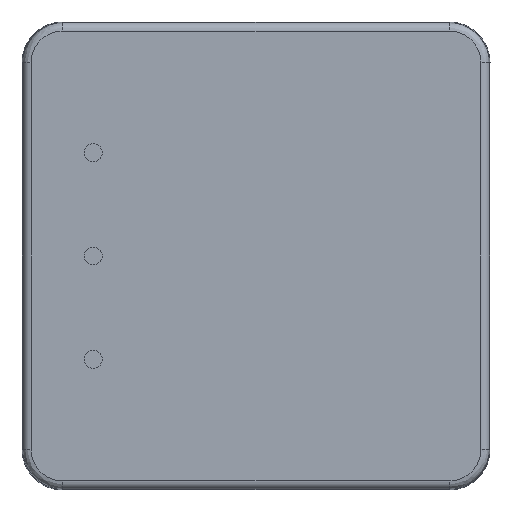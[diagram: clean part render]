
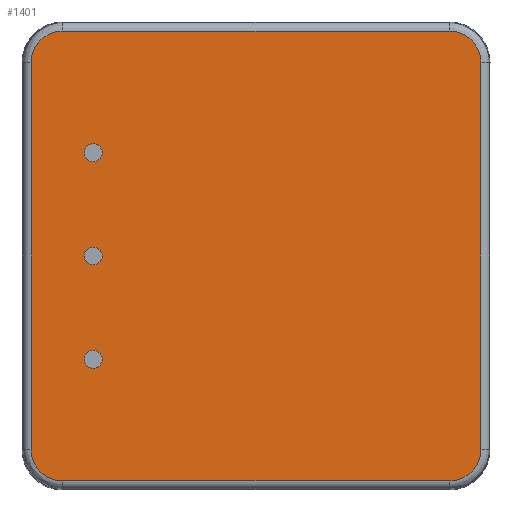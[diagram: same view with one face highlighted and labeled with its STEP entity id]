
A CAD part, front view. The second image highlights one B-rep face of the part: STEP entity #1401.
In plain terms, the highlighted planar face has unit normal (0, -1, 0).
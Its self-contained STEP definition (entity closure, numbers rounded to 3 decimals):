
#16 = ORIENTED_EDGE ( 'NONE', *, *, #745, .F. ) ;
#23 = VERTEX_POINT ( 'NONE', #1305 ) ;
#32 = VERTEX_POINT ( 'NONE', #110 ) ;
#35 = AXIS2_PLACEMENT_3D ( 'NONE', #1526, #690, #1177 ) ;
#46 = AXIS2_PLACEMENT_3D ( 'NONE', #583, #1075, #1197 ) ;
#47 = EDGE_LOOP ( 'NONE', ( #871, #309 ) ) ;
#68 = CIRCLE ( 'NONE', #376, 0.22 ) ;
#71 = CIRCLE ( 'NONE', #1193, 0.22 ) ;
#90 = CARTESIAN_POINT ( 'NONE',  ( -5.527, 0., -4.75 ) ) ;
#110 = CARTESIAN_POINT ( 'NONE',  ( -4., 0., 0.22 ) ) ;
#116 = EDGE_CURVE ( 'NONE', #768, #637, #613, .T. ) ;
#120 = CIRCLE ( 'NONE', #46, 0.22 ) ;
#155 = ORIENTED_EDGE ( 'NONE', *, *, #260, .F. ) ;
#174 = VECTOR ( 'NONE', #700, 1000. ) ;
#179 = CARTESIAN_POINT ( 'NONE',  ( -4., 0., 0. ) ) ;
#192 = CARTESIAN_POINT ( 'NONE',  ( -5.527, 0., 4.75 ) ) ;
#193 = CARTESIAN_POINT ( 'NONE',  ( -4.75, 0., -5.527 ) ) ;
#212 = CARTESIAN_POINT ( 'NONE',  ( 0., 0., -5.527 ) ) ;
#229 = CARTESIAN_POINT ( 'NONE',  ( 4.75, 0., -5.527 ) ) ;
#260 = EDGE_CURVE ( 'NONE', #32, #359, #68, .T. ) ;
#261 = CARTESIAN_POINT ( 'NONE',  ( -4.75, 0., 5.527 ) ) ;
#272 = DIRECTION ( 'NONE',  ( 0., -1., 0. ) ) ;
#291 = VERTEX_POINT ( 'NONE', #425 ) ;
#307 = CARTESIAN_POINT ( 'NONE',  ( 0., 0., 5.527 ) ) ;
#309 = ORIENTED_EDGE ( 'NONE', *, *, #506, .F. ) ;
#313 = CARTESIAN_POINT ( 'NONE',  ( -4., 0., 2.76 ) ) ;
#318 = DIRECTION ( 'NONE',  ( 1., 0., 0. ) ) ;
#321 = CARTESIAN_POINT ( 'NONE',  ( -4., 0., -2.54 ) ) ;
#346 = DIRECTION ( 'NONE',  ( 0., 0., 1. ) ) ;
#352 =( BOUNDED_CURVE ( )  B_SPLINE_CURVE ( 3, ( #193, #1294, #815, #90 ),
 .UNSPECIFIED., .F., .T. ) 
 B_SPLINE_CURVE_WITH_KNOTS ( ( 4, 4 ),
 ( 0., 1. ),
 .UNSPECIFIED. ) 
 CURVE ( )  GEOMETRIC_REPRESENTATION_ITEM ( )  RATIONAL_B_SPLINE_CURVE ( ( 1., 0.805, 0.805, 1. ) ) 
 REPRESENTATION_ITEM ( '' )  );
#359 = VERTEX_POINT ( 'NONE', #677 ) ;
#369 = EDGE_CURVE ( 'NONE', #793, #611, #580, .T. ) ;
#376 = AXIS2_PLACEMENT_3D ( 'NONE', #179, #408, #1276 ) ;
#380 = ORIENTED_EDGE ( 'NONE', *, *, #1387, .F. ) ;
#382 = CARTESIAN_POINT ( 'NONE',  ( 5.205, 0., 5.527 ) ) ;
#408 = DIRECTION ( 'NONE',  ( 0., -1., 0. ) ) ;
#425 = CARTESIAN_POINT ( 'NONE',  ( -4., 0., 2.32 ) ) ;
#427 = ORIENTED_EDGE ( 'NONE', *, *, #1512, .F. ) ;
#430 = DIRECTION ( 'NONE',  ( 0., -1., 0. ) ) ;
#439 = EDGE_CURVE ( 'NONE', #1370, #291, #71, .T. ) ;
#452 = FACE_BOUND ( 'NONE', #789, .T. ) ;
#475 = ORIENTED_EDGE ( 'NONE', *, *, #1566, .F. ) ;
#493 = EDGE_LOOP ( 'NONE', ( #799, #380, #1013, #1467, #427, #16, #475, #738 ) ) ;
#502 = VECTOR ( 'NONE', #318, 1000. ) ;
#506 = EDGE_CURVE ( 'NONE', #291, #1370, #120, .T. ) ;
#508 = CARTESIAN_POINT ( 'NONE',  ( -5.527, 0., 4.75 ) ) ;
#512 =( BOUNDED_CURVE ( )  B_SPLINE_CURVE ( 3, ( #508, #994, #1357, #261 ),
 .UNSPECIFIED., .F., .T. ) 
 B_SPLINE_CURVE_WITH_KNOTS ( ( 4, 4 ),
 ( 0., 1. ),
 .UNSPECIFIED. ) 
 CURVE ( )  GEOMETRIC_REPRESENTATION_ITEM ( )  RATIONAL_B_SPLINE_CURVE ( ( 1., 0.805, 0.805, 1. ) ) 
 REPRESENTATION_ITEM ( '' )  );
#514 = EDGE_LOOP ( 'NONE', ( #1257, #1106 ) ) ;
#536 = VERTEX_POINT ( 'NONE', #1558 ) ;
#561 = FACE_BOUND ( 'NONE', #47, .T. ) ;
#562 = CARTESIAN_POINT ( 'NONE',  ( -4., 0., -2.54 ) ) ;
#580 = CIRCLE ( 'NONE', #938, 0.22 ) ;
#583 = CARTESIAN_POINT ( 'NONE',  ( -4., 0., 2.54 ) ) ;
#611 = VERTEX_POINT ( 'NONE', #966 ) ;
#613 =( BOUNDED_CURVE ( )  B_SPLINE_CURVE ( 3, ( #739, #763, #891, #1371 ),
 .UNSPECIFIED., .F., .T. ) 
 B_SPLINE_CURVE_WITH_KNOTS ( ( 4, 4 ),
 ( 0., 1. ),
 .UNSPECIFIED. ) 
 CURVE ( )  GEOMETRIC_REPRESENTATION_ITEM ( )  RATIONAL_B_SPLINE_CURVE ( ( 1., 0.805, 0.805, 1. ) ) 
 REPRESENTATION_ITEM ( '' )  );
#629 = VERTEX_POINT ( 'NONE', #1453 ) ;
#637 = VERTEX_POINT ( 'NONE', #229 ) ;
#642 = LINE ( 'NONE', #883, #1255 ) ;
#669 = DIRECTION ( 'NONE',  ( -1., 0., 0. ) ) ;
#677 = CARTESIAN_POINT ( 'NONE',  ( -4., 0., -0.22 ) ) ;
#680 = CIRCLE ( 'NONE', #956, 0.22 ) ;
#686 = LINE ( 'NONE', #1530, #174 ) ;
#690 = DIRECTION ( 'NONE',  ( 0., 1., 0. ) ) ;
#700 = DIRECTION ( 'NONE',  ( 0., 0., 1. ) ) ;
#703 = CARTESIAN_POINT ( 'NONE',  ( -5.527, 0., -4.75 ) ) ;
#708 = CARTESIAN_POINT ( 'NONE',  ( 5.527, 0., -4.75 ) ) ;
#713 = EDGE_CURVE ( 'NONE', #1339, #1162, #686, .T. ) ;
#724 = VECTOR ( 'NONE', #669, 1000. ) ;
#738 = ORIENTED_EDGE ( 'NONE', *, *, #713, .F. ) ;
#739 = CARTESIAN_POINT ( 'NONE',  ( 5.527, 0., -4.75 ) ) ;
#745 = EDGE_CURVE ( 'NONE', #629, #536, #1287, .T. ) ;
#750 = CARTESIAN_POINT ( 'NONE',  ( -4., 0., 2.54 ) ) ;
#763 = CARTESIAN_POINT ( 'NONE',  ( 5.527, 0., -5.205 ) ) ;
#768 = VERTEX_POINT ( 'NONE', #708 ) ;
#774 =( BOUNDED_CURVE ( )  B_SPLINE_CURVE ( 3, ( #837, #382, #1204, #1216 ),
 .UNSPECIFIED., .F., .F. ) 
 B_SPLINE_CURVE_WITH_KNOTS ( ( 4, 4 ),
 ( 0., 1. ),
 .UNSPECIFIED. ) 
 CURVE ( )  GEOMETRIC_REPRESENTATION_ITEM ( )  RATIONAL_B_SPLINE_CURVE ( ( 1., 0.805, 0.805, 1. ) ) 
 REPRESENTATION_ITEM ( '' )  );
#789 = EDGE_LOOP ( 'NONE', ( #155, #1445 ) ) ;
#793 = VERTEX_POINT ( 'NONE', #1298 ) ;
#799 = ORIENTED_EDGE ( 'NONE', *, *, #1375, .F. ) ;
#815 = CARTESIAN_POINT ( 'NONE',  ( -5.527, 0., -5.205 ) ) ;
#837 = CARTESIAN_POINT ( 'NONE',  ( 4.75, 0., 5.527 ) ) ;
#839 = EDGE_CURVE ( 'NONE', #359, #32, #680, .T. ) ;
#869 = DIRECTION ( 'NONE',  ( 0., 0., 1. ) ) ;
#871 = ORIENTED_EDGE ( 'NONE', *, *, #439, .F. ) ;
#883 = CARTESIAN_POINT ( 'NONE',  ( 5.527, 0., 0. ) ) ;
#891 = CARTESIAN_POINT ( 'NONE',  ( 5.205, 0., -5.527 ) ) ;
#938 = AXIS2_PLACEMENT_3D ( 'NONE', #321, #430, #1030 ) ;
#955 = DIRECTION ( 'NONE',  ( 0., -1., 0. ) ) ;
#956 = AXIS2_PLACEMENT_3D ( 'NONE', #1571, #272, #869 ) ;
#966 = CARTESIAN_POINT ( 'NONE',  ( -4., 0., -2.76 ) ) ;
#994 = CARTESIAN_POINT ( 'NONE',  ( -5.527, 0., 5.205 ) ) ;
#1013 = ORIENTED_EDGE ( 'NONE', *, *, #116, .F. ) ;
#1030 = DIRECTION ( 'NONE',  ( 0., 0., 1. ) ) ;
#1043 = FACE_OUTER_BOUND ( 'NONE', #493, .T. ) ;
#1063 = LINE ( 'NONE', #212, #724 ) ;
#1070 = PLANE ( 'NONE',  #35 ) ;
#1075 = DIRECTION ( 'NONE',  ( 0., -1., 0. ) ) ;
#1106 = ORIENTED_EDGE ( 'NONE', *, *, #1200, .F. ) ;
#1117 = DIRECTION ( 'NONE',  ( 0., -1., 0. ) ) ;
#1132 = DIRECTION ( 'NONE',  ( 0., 0., -1. ) ) ;
#1162 = VERTEX_POINT ( 'NONE', #192 ) ;
#1177 = DIRECTION ( 'NONE',  ( 1., 0., 0. ) ) ;
#1193 = AXIS2_PLACEMENT_3D ( 'NONE', #750, #1117, #1499 ) ;
#1197 = DIRECTION ( 'NONE',  ( 0., 0., 1. ) ) ;
#1200 = EDGE_CURVE ( 'NONE', #611, #793, #1456, .T. ) ;
#1204 = CARTESIAN_POINT ( 'NONE',  ( 5.527, 0., 5.205 ) ) ;
#1216 = CARTESIAN_POINT ( 'NONE',  ( 5.527, 0., 4.75 ) ) ;
#1255 = VECTOR ( 'NONE', #1132, 1000. ) ;
#1257 = ORIENTED_EDGE ( 'NONE', *, *, #369, .F. ) ;
#1276 = DIRECTION ( 'NONE',  ( 0., 0., 1. ) ) ;
#1287 = LINE ( 'NONE', #307, #502 ) ;
#1294 = CARTESIAN_POINT ( 'NONE',  ( -5.205, 0., -5.527 ) ) ;
#1298 = CARTESIAN_POINT ( 'NONE',  ( -4., 0., -2.32 ) ) ;
#1305 = CARTESIAN_POINT ( 'NONE',  ( -4.75, 0., -5.527 ) ) ;
#1321 = CARTESIAN_POINT ( 'NONE',  ( 5.527, 0., 4.75 ) ) ;
#1339 = VERTEX_POINT ( 'NONE', #703 ) ;
#1357 = CARTESIAN_POINT ( 'NONE',  ( -5.205, 0., 5.527 ) ) ;
#1370 = VERTEX_POINT ( 'NONE', #313 ) ;
#1371 = CARTESIAN_POINT ( 'NONE',  ( 4.75, 0., -5.527 ) ) ;
#1375 = EDGE_CURVE ( 'NONE', #23, #1339, #352, .T. ) ;
#1387 = EDGE_CURVE ( 'NONE', #637, #23, #1063, .T. ) ;
#1401 = ADVANCED_FACE ( 'NONE', ( #561, #452, #1545, #1043 ), #1070, .F. ) ;
#1445 = ORIENTED_EDGE ( 'NONE', *, *, #839, .F. ) ;
#1453 = CARTESIAN_POINT ( 'NONE',  ( -4.75, 0., 5.527 ) ) ;
#1456 = CIRCLE ( 'NONE', #1482, 0.22 ) ;
#1467 = ORIENTED_EDGE ( 'NONE', *, *, #1565, .F. ) ;
#1482 = AXIS2_PLACEMENT_3D ( 'NONE', #562, #955, #346 ) ;
#1488 = VERTEX_POINT ( 'NONE', #1321 ) ;
#1499 = DIRECTION ( 'NONE',  ( 0., 0., 1. ) ) ;
#1512 = EDGE_CURVE ( 'NONE', #536, #1488, #774, .T. ) ;
#1526 = CARTESIAN_POINT ( 'NONE',  ( 0., 0., 0. ) ) ;
#1530 = CARTESIAN_POINT ( 'NONE',  ( -5.527, 0., 0. ) ) ;
#1545 = FACE_BOUND ( 'NONE', #514, .T. ) ;
#1558 = CARTESIAN_POINT ( 'NONE',  ( 4.75, 0., 5.527 ) ) ;
#1565 = EDGE_CURVE ( 'NONE', #1488, #768, #642, .T. ) ;
#1566 = EDGE_CURVE ( 'NONE', #1162, #629, #512, .T. ) ;
#1571 = CARTESIAN_POINT ( 'NONE',  ( -4., 0., 0. ) ) ;
